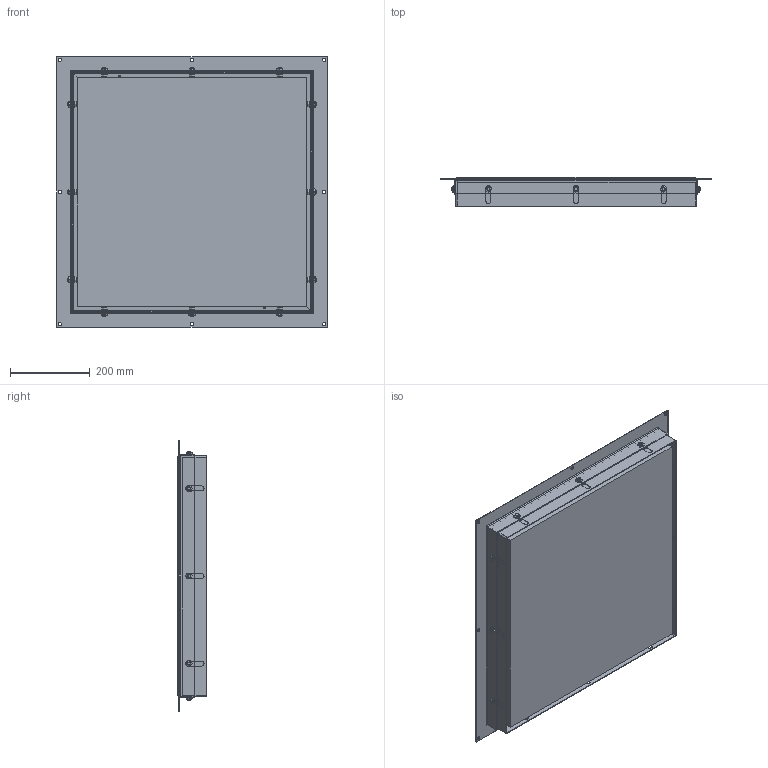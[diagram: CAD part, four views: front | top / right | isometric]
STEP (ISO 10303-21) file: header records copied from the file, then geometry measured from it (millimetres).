
FILE_DESCRIPTION (( 'STEP AP214' ), '1' );
FILE_NAME ('MS-WP-E_122223.STEP', '2019-02-13T08:35:42', ( '' ), ( '' ), 'SwSTEP 2.0', 'SolidWorks 2018', '' );
FILE_SCHEMA (( 'AUTOMOTIVE_DESIGN' ));
Length unit declared in the file: millimetre
Products named in the file (1): MS-WP-E_122223
Bounding box: 680 x 72.4 x 680 mm (x, y, z)
Volume: 24907205 mm3; surface area: 1583472.5 mm2
Topology: 1 solids, 3 shells, 1445 faces, 3696 edges, 2208 vertices
Faces by surface type: plane 617, cylinder 498, bspline 180, cone 102, torus 48
Entity records: 55126 total; most frequent: CARTESIAN_POINT 21760, ORIENTED_EDGE 7200, DIRECTION 6474, EDGE_CURVE 3600, AXIS2_PLACEMENT_3D 2322, VERTEX_POINT 2208, VECTOR 1830, LINE 1830
